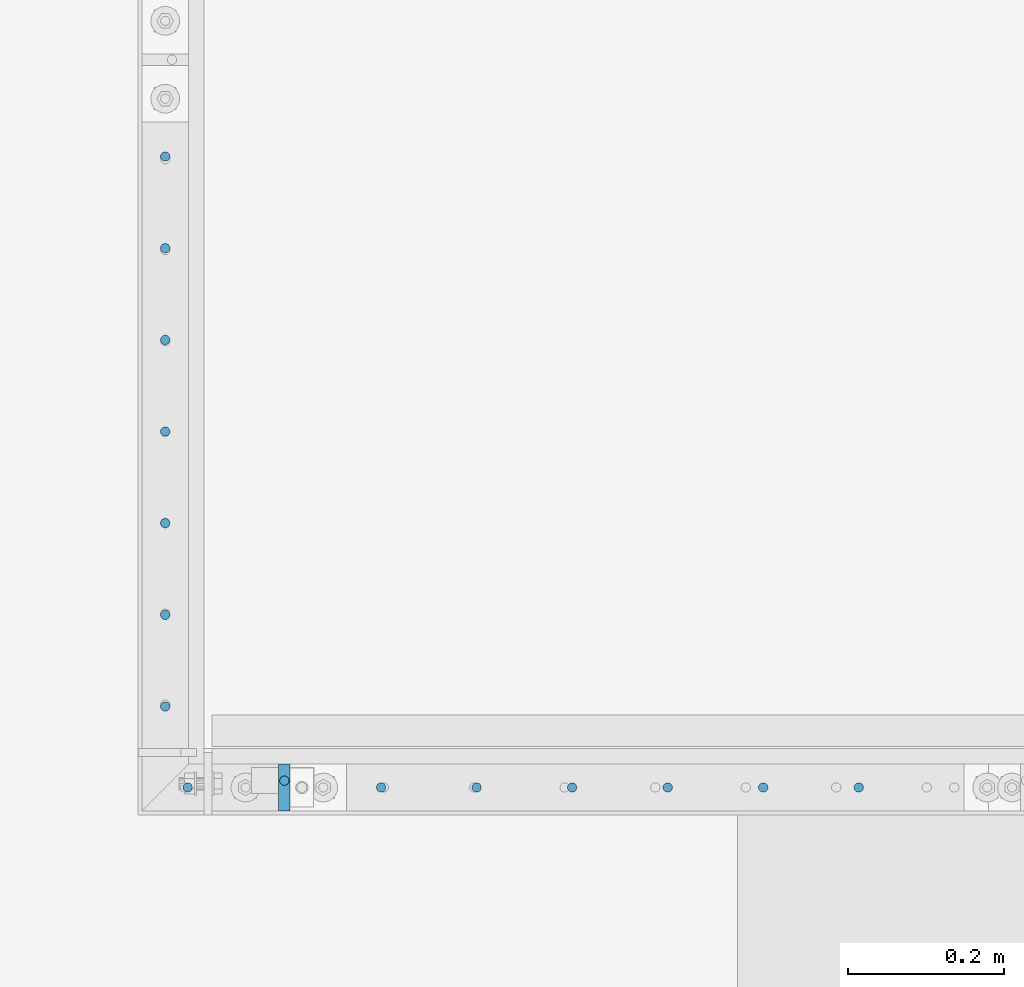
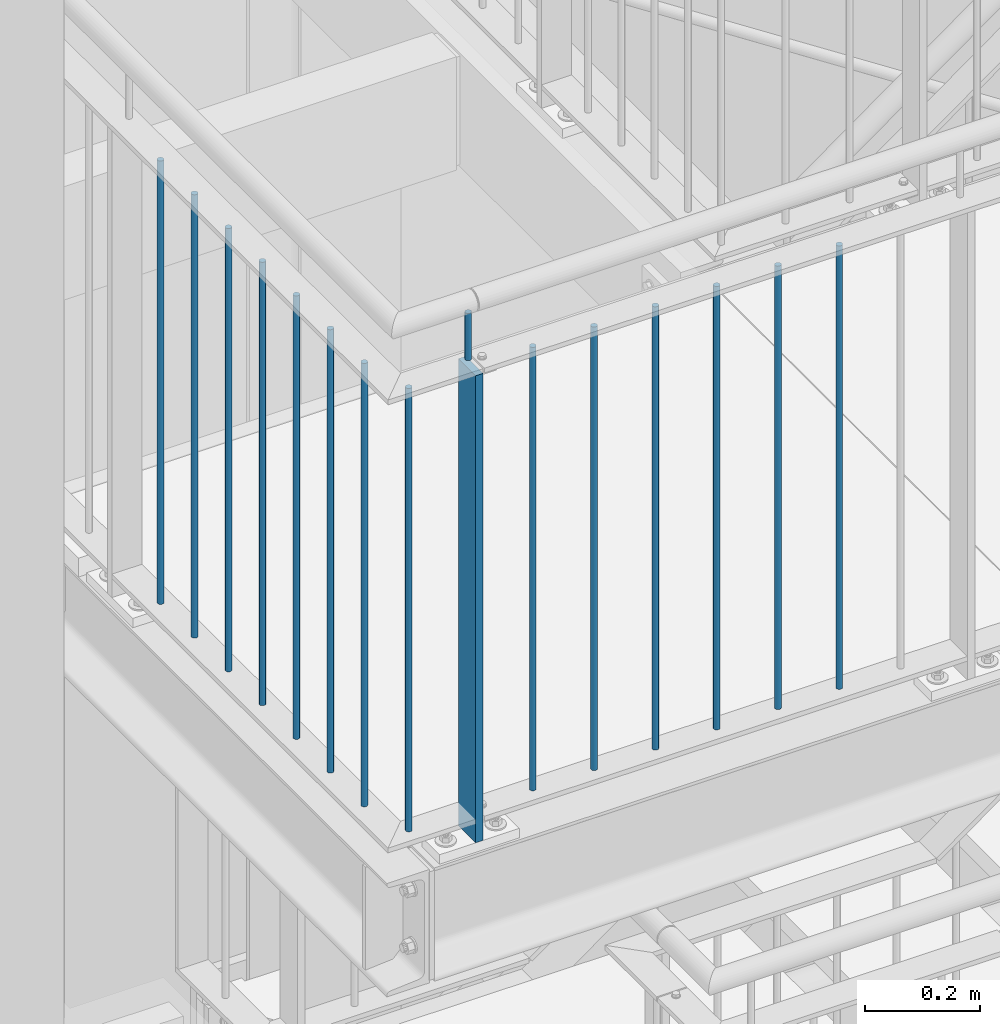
# One storey, part 8 of 825: 16 columns.
"""IFC2X3 building model written with IfcOpenShell, lengths in millimetres."""

from ifc_helpers import new_model, entity, si_unit, converted_unit, frame, origin, origin_with_axes, origin_2d, place, context, project, spatial, rectangle, circle, extrude, clip, halfspace, material, element, save


model = new_model("IFC2X3")

# Units and contexts
model_context = context("Model", 3, precision=1e-09, world=origin_with_axes())
ifc_project = project(units=[si_unit("LENGTHUNIT", "METRE", prefix="MILLI"), si_unit("AREAUNIT", "SQUARE_METRE"), si_unit("VOLUMEUNIT", "CUBIC_METRE"), converted_unit("PLANEANGLEUNIT", "DEGREE", entity("IfcPlaneAngleMeasure", 0.01745329), si_unit("PLANEANGLEUNIT", "RADIAN"), dimensions=[0, 0, 0, 0, 0, 0, 0])], contexts=[model_context])

# Site, building, storey
site_placement = place(None, origin_with_axes())
site = spatial("IfcSite", under=ifc_project, at=site_placement, Name="Cnopf'sche Kinderklinik", CompositionType="ELEMENT")
building_placement = place(site_placement, origin_with_axes())
building = spatial("IfcBuilding", under=site, at=building_placement, Name="Struktur 1", CompositionType="ELEMENT")
storey_placement = place(building_placement, origin_with_axes())
storey = spatial("IfcBuildingStorey", under=building, at=storey_placement, Name="Default Storey", CompositionType="ELEMENT", Elevation=0.0)

# Columns
ifc_material = material(Name="S235JR")
column_1_placement = place(None, frame((3424.79154585, 4526.736971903, 18873.723292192), z_axis=(0.0, 0.0, 1.0), x_axis=(-1.0, 0.0, 0.0)))
element("IfcColumn", 1, at=column_1_placement, inside=storey, material=ifc_material, Name="Railing_Post_Landing#13", ObjectType="Railing_Post_Landing#13", context=model_context, shape_type="Clipping", body=[
    clip(clip(extrude(rectangle(XDim=15.0, YDim=60.0, at=origin_2d()), origin(), (0.0, 0.0, -1.0), 1070.646584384), halfspace(frame((3424.79154585, 4526.736971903, -1019.722292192), z_axis=(0.0, 0.0, 1.0), x_axis=(-1.0, 0.0, 0.0)), True)), halfspace(frame((3424.79154585, 4526.736971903, -30.924292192), z_axis=(0.0, 0.0, -1.0), x_axis=(1.0, 0.0, 0.0)), True)),
])
column_2_placement = place(None, frame((4162.791664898, 4526.736971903, 18856.285281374), z_axis=(0.0, 0.0, 1.0), x_axis=(-1.0, 0.0, 0.0)))
element("IfcColumn", 2, at=column_2_placement, inside=storey, material=ifc_material, Name="Railing_Picket_Landing#84", ObjectType="Railing_Picket_Landing#84", context=model_context, shape_type="Clipping", body=[
    clip(clip(extrude(circle(Radius=6.0, at=origin_2d()), origin(), (0.0, 0.0, -1.0), 965.770562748), halfspace(frame((4162.791664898, 4526.736971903, -13.486281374), z_axis=(0.0, 0.0, -1.0), x_axis=(1.0, 0.0, 0.0)), True)), halfspace(frame((4162.791664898, 4526.736971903, -952.284281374), z_axis=(0.0, 0.0, 1.0), x_axis=(-1.0, 0.0, 0.0)), True)),
])
column_3_placement = place(None, frame((4040.041641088, 4526.736971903, 18856.285281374), z_axis=(0.0, 0.0, 1.0), x_axis=(-1.0, 0.0, 0.0)))
element("IfcColumn", 3, at=column_3_placement, inside=storey, material=ifc_material, Name="Railing_Picket_Landing#85", ObjectType="Railing_Picket_Landing#85", context=model_context, shape_type="Clipping", body=[
    clip(clip(extrude(circle(Radius=6.0, at=origin_2d()), origin(), (0.0, 0.0, -1.0), 965.770562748), halfspace(frame((4040.041641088, 4526.736971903, -13.486281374), z_axis=(0.0, 0.0, -1.0), x_axis=(1.0, 0.0, 0.0)), True)), halfspace(frame((4040.041641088, 4526.736971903, -952.284281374), z_axis=(0.0, 0.0, 1.0), x_axis=(-1.0, 0.0, 0.0)), True)),
])
column_4_placement = place(None, frame((3917.291617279, 4526.736971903, 18856.285281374), z_axis=(0.0, 0.0, 1.0), x_axis=(-1.0, 0.0, 0.0)))
element("IfcColumn", 4, at=column_4_placement, inside=storey, material=ifc_material, Name="Railing_Picket_Landing#86", ObjectType="Railing_Picket_Landing#86", context=model_context, shape_type="Clipping", body=[
    clip(clip(extrude(circle(Radius=6.0, at=origin_2d()), origin(), (0.0, 0.0, -1.0), 965.770562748), halfspace(frame((3917.291617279, 4526.736971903, -13.486281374), z_axis=(0.0, 0.0, -1.0), x_axis=(1.0, 0.0, 0.0)), True)), halfspace(frame((3917.291617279, 4526.736971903, -952.284281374), z_axis=(0.0, 0.0, 1.0), x_axis=(-1.0, 0.0, 0.0)), True)),
])
column_5_placement = place(None, frame((3794.541593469, 4526.736971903, 18856.285281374), z_axis=(0.0, 0.0, 1.0), x_axis=(-1.0, 0.0, 0.0)))
element("IfcColumn", 5, at=column_5_placement, inside=storey, material=ifc_material, Name="Railing_Picket_Landing#87", ObjectType="Railing_Picket_Landing#87", context=model_context, shape_type="Clipping", body=[
    clip(clip(extrude(circle(Radius=6.0, at=origin_2d()), origin(), (0.0, 0.0, -1.0), 965.770562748), halfspace(frame((3794.541593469, 4526.736971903, -13.486281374), z_axis=(0.0, 0.0, -1.0), x_axis=(1.0, 0.0, 0.0)), True)), halfspace(frame((3794.541593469, 4526.736971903, -952.284281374), z_axis=(0.0, 0.0, 1.0), x_axis=(-1.0, 0.0, 0.0)), True)),
])
column_6_placement = place(None, frame((3671.79156966, 4526.736971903, 18856.285281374), z_axis=(0.0, 0.0, 1.0), x_axis=(-1.0, 0.0, 0.0)))
element("IfcColumn", 6, at=column_6_placement, inside=storey, material=ifc_material, Name="Railing_Picket_Landing#88", ObjectType="Railing_Picket_Landing#88", context=model_context, shape_type="Clipping", body=[
    clip(clip(extrude(circle(Radius=6.0, at=origin_2d()), origin(), (0.0, 0.0, -1.0), 965.770562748), halfspace(frame((3671.79156966, 4526.736971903, -13.486281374), z_axis=(0.0, 0.0, -1.0), x_axis=(1.0, 0.0, 0.0)), True)), halfspace(frame((3671.79156966, 4526.736971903, -952.284281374), z_axis=(0.0, 0.0, 1.0), x_axis=(-1.0, 0.0, 0.0)), True)),
])
column_7_placement = place(None, frame((3549.04154585, 4526.736971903, 18856.285281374), z_axis=(0.0, 0.0, 1.0), x_axis=(-1.0, 0.0, 0.0)))
element("IfcColumn", 7, at=column_7_placement, inside=storey, material=ifc_material, Name="Railing_Picket_Landing#89", ObjectType="Railing_Picket_Landing#89", context=model_context, shape_type="Clipping", body=[
    clip(clip(extrude(circle(Radius=6.0, at=origin_2d()), origin(), (0.0, 0.0, -1.0), 965.770562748), halfspace(frame((3549.04154585, 4526.736971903, -13.486281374), z_axis=(0.0, 0.0, -1.0), x_axis=(1.0, 0.0, 0.0)), True)), halfspace(frame((3549.04154585, 4526.736971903, -952.284281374), z_axis=(0.0, 0.0, 1.0), x_axis=(-1.0, 0.0, 0.0)), True)),
])
column_8_placement = place(None, frame((3300.54154585, 4526.736971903, 18856.285281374), z_axis=(0.0, 0.0, 1.0), x_axis=(-1.0, 0.0, 0.0)))
element("IfcColumn", 8, at=column_8_placement, inside=storey, material=ifc_material, Name="Railing_Picket_Landing#90", ObjectType="Railing_Picket_Landing#90", context=model_context, shape_type="Clipping", body=[
    clip(clip(extrude(circle(Radius=6.0, at=origin_2d()), origin(), (0.0, 0.0, -1.0), 965.770562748), halfspace(frame((3300.54154585, 4526.736971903, -13.486281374), z_axis=(0.0, 0.0, -1.0), x_axis=(1.0, 0.0, 0.0)), True)), halfspace(frame((3300.54154585, 4526.736971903, -952.284281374), z_axis=(0.0, 0.0, 1.0), x_axis=(-1.0, 0.0, 0.0)), True)),
])
column_9_placement = place(None, frame((3271.713402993, 4630.705992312, 18856.285281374), z_axis=(0.0, 0.0, 1.0), x_axis=(0.0, 1.0, 0.0)))
element("IfcColumn", 9, at=column_9_placement, inside=storey, material=ifc_material, Name="Railing_Picket_Landing#91", ObjectType="Railing_Picket_Landing#91", context=model_context, shape_type="Clipping", body=[
    clip(clip(extrude(circle(Radius=6.0, at=origin_2d()), origin(), (0.0, 0.0, -1.0), 965.770562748), halfspace(frame((-4630.705992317, 3271.713402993, -13.486281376), z_axis=(0.0, 0.0, -1.0), x_axis=(0.0, 1.0, 0.0)), True)), halfspace(frame((-4630.705992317, 3271.713402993, -952.284281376), z_axis=(0.0, 0.0, 1.0), x_axis=(0.0, -1.0, 0.0)), True)),
])
column_10_placement = place(None, frame((3271.713402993, 4748.503155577, 18856.285281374), z_axis=(0.0, 0.0, 1.0), x_axis=(0.0, 1.0, 0.0)))
element("IfcColumn", 10, at=column_10_placement, inside=storey, material=ifc_material, Name="Railing_Picket_Landing#92", ObjectType="Railing_Picket_Landing#92", context=model_context, shape_type="Clipping", body=[
    clip(clip(extrude(circle(Radius=6.0, at=origin_2d()), origin(), (0.0, 0.0, -1.0), 965.770562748), halfspace(frame((-4748.503155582, 3271.713402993, -13.486281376), z_axis=(0.0, 0.0, -1.0), x_axis=(0.0, 1.0, 0.0)), True)), halfspace(frame((-4748.503155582, 3271.713402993, -952.284281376), z_axis=(0.0, 0.0, 1.0), x_axis=(0.0, -1.0, 0.0)), True)),
])
column_11_placement = place(None, frame((3271.713402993, 4866.300318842, 18856.285281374), z_axis=(0.0, 0.0, 1.0), x_axis=(0.0, 1.0, 0.0)))
element("IfcColumn", 11, at=column_11_placement, inside=storey, material=ifc_material, Name="Railing_Picket_Landing#93", ObjectType="Railing_Picket_Landing#93", context=model_context, shape_type="Clipping", body=[
    clip(clip(extrude(circle(Radius=6.0, at=origin_2d()), origin(), (0.0, 0.0, -1.0), 965.770562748), halfspace(frame((-4866.300318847, 3271.713402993, -13.486281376), z_axis=(0.0, 0.0, -1.0), x_axis=(0.0, 1.0, 0.0)), True)), halfspace(frame((-4866.300318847, 3271.713402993, -952.284281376), z_axis=(0.0, 0.0, 1.0), x_axis=(0.0, -1.0, 0.0)), True)),
])
column_12_placement = place(None, frame((3271.713402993, 4984.097482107, 18856.285281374), z_axis=(0.0, 0.0, 1.0), x_axis=(0.0, 1.0, 0.0)))
element("IfcColumn", 12, at=column_12_placement, inside=storey, material=ifc_material, Name="Railing_Picket_Landing#94", ObjectType="Railing_Picket_Landing#94", context=model_context, shape_type="Clipping", body=[
    clip(clip(extrude(circle(Radius=6.0, at=origin_2d()), origin(), (0.0, 0.0, -1.0), 965.770562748), halfspace(frame((-4984.097482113, 3271.713402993, -13.486281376), z_axis=(0.0, 0.0, -1.0), x_axis=(0.0, 1.0, 0.0)), True)), halfspace(frame((-4984.097482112, 3271.713402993, -952.284281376), z_axis=(0.0, 0.0, 1.0), x_axis=(0.0, -1.0, 0.0)), True)),
])
column_13_placement = place(None, frame((3271.713402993, 5101.894645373, 18856.285281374), z_axis=(0.0, 0.0, 1.0), x_axis=(0.0, 1.0, 0.0)))
element("IfcColumn", 13, at=column_13_placement, inside=storey, material=ifc_material, Name="Railing_Picket_Landing#95", ObjectType="Railing_Picket_Landing#95", context=model_context, shape_type="Clipping", body=[
    clip(clip(extrude(circle(Radius=6.0, at=origin_2d()), origin(), (0.0, 0.0, -1.0), 965.770562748), halfspace(frame((-5101.894645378, 3271.713402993, -13.486281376), z_axis=(0.0, 0.0, -1.0), x_axis=(0.0, 1.0, 0.0)), True)), halfspace(frame((-5101.894645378, 3271.713402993, -952.284281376), z_axis=(0.0, 0.0, 1.0), x_axis=(0.0, -1.0, 0.0)), True)),
])
column_14_placement = place(None, frame((3271.713402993, 5219.691808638, 18856.285281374), z_axis=(0.0, 0.0, 1.0), x_axis=(0.0, 1.0, 0.0)))
element("IfcColumn", 14, at=column_14_placement, inside=storey, material=ifc_material, Name="Railing_Picket_Landing#96", ObjectType="Railing_Picket_Landing#96", context=model_context, shape_type="Clipping", body=[
    clip(clip(extrude(circle(Radius=6.0, at=origin_2d()), origin(), (0.0, 0.0, -1.0), 965.770562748), halfspace(frame((-5219.691808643, 3271.713402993, -13.486281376), z_axis=(0.0, 0.0, -1.0), x_axis=(0.0, 1.0, 0.0)), True)), halfspace(frame((-5219.691808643, 3271.713402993, -952.284281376), z_axis=(0.0, 0.0, 1.0), x_axis=(0.0, -1.0, 0.0)), True)),
])
column_15_placement = place(None, frame((3271.713402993, 5337.488971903, 18856.285281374), z_axis=(0.0, 0.0, 1.0), x_axis=(0.0, 1.0, 0.0)))
element("IfcColumn", 15, at=column_15_placement, inside=storey, material=ifc_material, Name="Railing_Picket_Landing#97", ObjectType="Railing_Picket_Landing#97", context=model_context, shape_type="Clipping", body=[
    clip(clip(extrude(circle(Radius=6.0, at=origin_2d()), origin(), (0.0, 0.0, -1.0), 965.770562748), halfspace(frame((-5337.488971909, 3271.713402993, -13.486281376), z_axis=(0.0, 0.0, -1.0), x_axis=(0.0, 1.0, 0.0)), True)), halfspace(frame((-5337.488971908, 3271.713402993, -952.284281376), z_axis=(0.0, 0.0, 1.0), x_axis=(0.0, -1.0, 0.0)), True)),
])
column_16_placement = place(None, frame((3424.79154585, 4535.536971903, 18961.285281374), z_axis=(0.0, 0.0, 1.0), x_axis=(0.0, 1.0, 0.0)))
element("IfcColumn", 16, at=column_16_placement, inside=storey, material=ifc_material, Name="Bar#13", ObjectType="Bar#13", context=model_context, shape_type="Clipping", body=[
    clip(clip(extrude(circle(Radius=6.0, at=origin_2d()), origin(), (0.0, 0.0, -1.0), 116.970562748), halfspace(frame((-4535.536971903, 3424.79154585, -8.486281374), z_axis=(0.0, 0.0, -1.0), x_axis=(0.0, 1.0, 0.0)), True)), halfspace(frame((-4535.536971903, 3424.79154585, -108.484281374), z_axis=(0.0, 0.0, 1.0), x_axis=(0.0, -1.0, 0.0)), True)),
])

save(model, "model.ifc")
